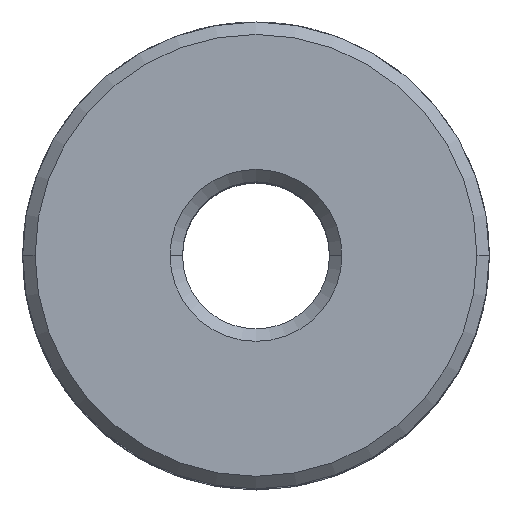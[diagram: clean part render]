
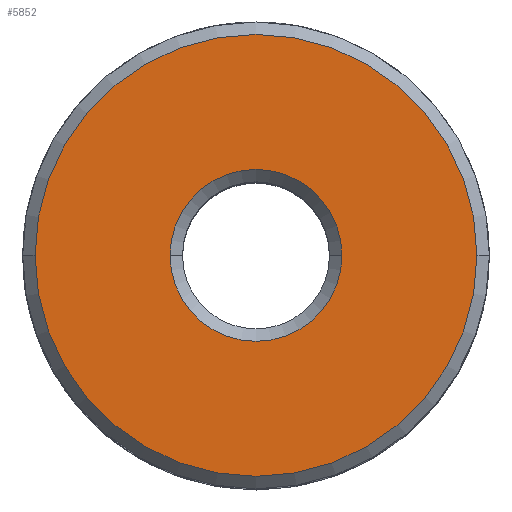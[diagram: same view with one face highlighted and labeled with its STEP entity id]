
A CAD part, top view. The second image highlights one B-rep face of the part: STEP entity #5852.
In plain terms, the highlighted planar face has unit normal (0, 0, 1).
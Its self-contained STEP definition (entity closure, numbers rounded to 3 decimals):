
#2868=CARTESIAN_POINT('',(-3.932,-0.478,
6.21));
#2869=DIRECTION('',(0.,0.,1.));
#2870=DIRECTION('',(-1.,0.,0.));
#2871=AXIS2_PLACEMENT_3D('',#2868,#2869,#2870);
#2876=CARTESIAN_POINT('',(-3.932,-0.478,
6.21));
#2877=DIRECTION('',(0.,0.,-1.));
#2878=DIRECTION('',(-1.,0.,0.));
#2879=AXIS2_PLACEMENT_3D('',#2876,#2877,#2878);
#2884=CARTESIAN_POINT('',(-3.932,-0.478,
6.21));
#2885=DIRECTION('',(0.,0.,-1.));
#2886=DIRECTION('',(1.,0.,0.));
#2887=AXIS2_PLACEMENT_3D('',#2884,#2885,#2886);
#2899=CARTESIAN_POINT('',(-3.932,-0.478,
6.21));
#2900=DIRECTION('',(0.,0.,1.));
#2901=DIRECTION('',(1.,0.,0.));
#2902=AXIS2_PLACEMENT_3D('',#2899,#2900,#2901);
#3621=CARTESIAN_POINT('',(0.576,-0.478,
6.21));
#3622=CARTESIAN_POINT('',(-8.441,-0.478,
6.21));
#3623=VERTEX_POINT('',#3621);
#3624=VERTEX_POINT('',#3622);
#3625=CARTESIAN_POINT('',(-5.686,-0.478,
6.21));
#3626=CARTESIAN_POINT('',(-2.178,-0.478,
6.21));
#3627=VERTEX_POINT('',#3625);
#3628=VERTEX_POINT('',#3626);
#5836=CARTESIAN_POINT('',(-3.932,-0.478,
6.21));
#5837=DIRECTION('',(0.,0.,1.));
#5838=DIRECTION('',(1.,0.,0.));
#5839=AXIS2_PLACEMENT_3D('',#5836,#5837,#5838);
#5840=PLANE('',#5839);
#5842=ORIENTED_EDGE('',*,*,#5841,.F.);
#5843=ORIENTED_EDGE('',*,*,#5826,.F.);
#5844=EDGE_LOOP('',(#5842,#5843));
#5845=FACE_OUTER_BOUND('',#5844,.F.);
#5847=ORIENTED_EDGE('',*,*,#5846,.F.);
#5849=ORIENTED_EDGE('',*,*,#5848,.F.);
#5850=EDGE_LOOP('',(#5847,#5849));
#5851=FACE_BOUND('',#5850,.F.);
#2872=CIRCLE('',#2871,4.509);
#2880=CIRCLE('',#2879,1.754);
#2888=CIRCLE('',#2887,1.754);
#2903=CIRCLE('',#2902,4.509);
#5826=EDGE_CURVE('',#3624,#3623,#2872,.T.);
#5841=EDGE_CURVE('',#3623,#3624,#2903,.T.);
#5846=EDGE_CURVE('',#3627,#3628,#2880,.T.);
#5848=EDGE_CURVE('',#3628,#3627,#2888,.T.);
#5852=ADVANCED_FACE('',(#5845,#5851),#5840,.T.);
